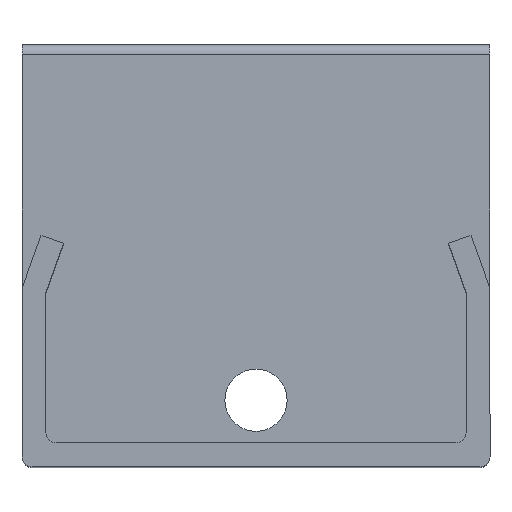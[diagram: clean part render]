
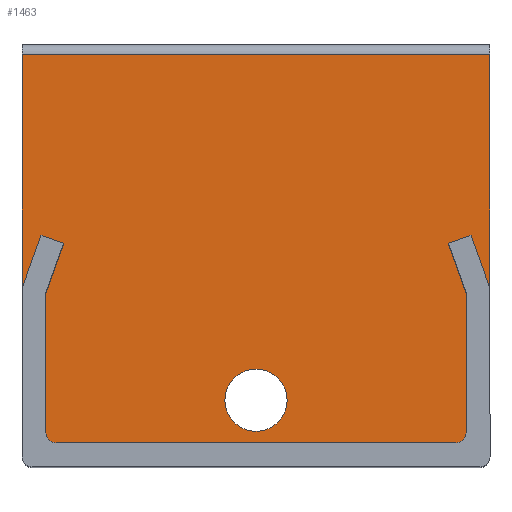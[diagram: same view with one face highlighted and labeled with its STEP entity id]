
A CAD part, top view. The second image highlights one B-rep face of the part: STEP entity #1463.
In plain terms, the highlighted planar face has unit normal (0, 0, 1).
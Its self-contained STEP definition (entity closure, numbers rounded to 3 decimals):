
#3 = EDGE_CURVE ( 'NONE', #1273, #1329, #1323, .T. ) ;
#28 = LINE ( 'NONE', #293, #1146 ) ;
#59 = EDGE_CURVE ( 'NONE', #843, #1461, #857, .T. ) ;
#65 = LINE ( 'NONE', #1519, #347 ) ;
#81 = DIRECTION ( 'NONE',  ( 0., 1., 0. ) ) ;
#122 = CARTESIAN_POINT ( 'NONE',  ( 19.25, 0.2, 0. ) ) ;
#168 = VERTEX_POINT ( 'NONE', #419 ) ;
#197 = ORIENTED_EDGE ( 'NONE', *, *, #878, .F. ) ;
#213 = VECTOR ( 'NONE', #1095, 1000. ) ;
#228 = VECTOR ( 'NONE', #1368, 1000. ) ;
#229 = ORIENTED_EDGE ( 'NONE', *, *, #583, .F. ) ;
#247 = CARTESIAN_POINT ( 'NONE',  ( 22.55, 35.4, 0. ) ) ;
#267 = CARTESIAN_POINT ( 'NONE',  ( 19.25, 1.2, 0. ) ) ;
#276 = EDGE_CURVE ( 'NONE', #168, #1060, #620, .T. ) ;
#277 = CIRCLE ( 'NONE', #632, 3. ) ;
#287 = CARTESIAN_POINT ( 'NONE',  ( 22.55, 15.1, 0. ) ) ;
#291 = CARTESIAN_POINT ( 'NONE',  ( 0., 4.4, 0. ) ) ;
#293 = CARTESIAN_POINT ( 'NONE',  ( 20.25, 1.2, 0. ) ) ;
#298 = DIRECTION ( 'NONE',  ( 0., 1., 0. ) ) ;
#312 = DIRECTION ( 'NONE',  ( -0.338, -0.941, 0. ) ) ;
#314 = DIRECTION ( 'NONE',  ( 0., 0., -1. ) ) ;
#336 = VERTEX_POINT ( 'NONE', #1677 ) ;
#347 = VECTOR ( 'NONE', #312, 1000. ) ;
#372 = CARTESIAN_POINT ( 'NONE',  ( 0., 1.4, 0. ) ) ;
#379 = ORIENTED_EDGE ( 'NONE', *, *, #934, .F. ) ;
#384 = LINE ( 'NONE', #1326, #1490 ) ;
#419 = CARTESIAN_POINT ( 'NONE',  ( -20.25, 14.7, 0. ) ) ;
#441 = VERTEX_POINT ( 'NONE', #1415 ) ;
#446 = ORIENTED_EDGE ( 'NONE', *, *, #1405, .F. ) ;
#459 = CARTESIAN_POINT ( 'NONE',  ( -18.556, 19.423, 0. ) ) ;
#499 = AXIS2_PLACEMENT_3D ( 'NONE', #790, #664, #1756 ) ;
#548 = CARTESIAN_POINT ( 'NONE',  ( -22.55, 35.4, 0. ) ) ;
#556 = DIRECTION ( 'NONE',  ( 0., 1., 0. ) ) ;
#579 = AXIS2_PLACEMENT_3D ( 'NONE', #267, #688, #1628 ) ;
#583 = EDGE_CURVE ( 'NONE', #1461, #168, #687, .T. ) ;
#590 = CARTESIAN_POINT ( 'NONE',  ( -18.556, 19.423, 0. ) ) ;
#596 = FACE_OUTER_BOUND ( 'NONE', #927, .T. ) ;
#597 = LINE ( 'NONE', #287, #228 ) ;
#620 = LINE ( 'NONE', #459, #1169 ) ;
#623 = CARTESIAN_POINT ( 'NONE',  ( -20.25, 14.7, 0. ) ) ;
#632 = AXIS2_PLACEMENT_3D ( 'NONE', #291, #1109, #1243 ) ;
#647 = DIRECTION ( 'NONE',  ( 0.338, -0.941, 0. ) ) ;
#653 = VERTEX_POINT ( 'NONE', #122 ) ;
#656 = CIRCLE ( 'NONE', #579, 1. ) ;
#664 = DIRECTION ( 'NONE',  ( 0., 0., -1. ) ) ;
#687 = LINE ( 'NONE', #623, #814 ) ;
#688 = DIRECTION ( 'NONE',  ( 0., 0., -1. ) ) ;
#689 = EDGE_CURVE ( 'NONE', #336, #1273, #1371, .T. ) ;
#695 = CARTESIAN_POINT ( 'NONE',  ( 0., 4.4, 0. ) ) ;
#700 = CARTESIAN_POINT ( 'NONE',  ( 21.6, 37.7, 0. ) ) ;
#706 = PLANE ( 'NONE',  #1749 ) ;
#710 = DIRECTION ( 'NONE',  ( 0.338, 0.941, 0. ) ) ;
#767 = AXIS2_PLACEMENT_3D ( 'NONE', #695, #972, #298 ) ;
#780 = FACE_BOUND ( 'NONE', #951, .T. ) ;
#790 = CARTESIAN_POINT ( 'NONE',  ( -19.25, 1.2, 0. ) ) ;
#791 = CARTESIAN_POINT ( 'NONE',  ( 20.25, 1.2, 0. ) ) ;
#794 = EDGE_CURVE ( 'NONE', #868, #441, #65, .T. ) ;
#798 = CARTESIAN_POINT ( 'NONE',  ( 21.6, 37.7, 0. ) ) ;
#804 = VERTEX_POINT ( 'NONE', #838 ) ;
#806 = DIRECTION ( 'NONE',  ( -1., 0., 0. ) ) ;
#809 = CARTESIAN_POINT ( 'NONE',  ( -22.55, 37.7, 0. ) ) ;
#814 = VECTOR ( 'NONE', #81, 1000. ) ;
#838 = CARTESIAN_POINT ( 'NONE',  ( 18.556, 19.423, 0. ) ) ;
#843 = VERTEX_POINT ( 'NONE', #1388 ) ;
#845 = EDGE_CURVE ( 'NONE', #1333, #1201, #1321, .T. ) ;
#852 = DIRECTION ( 'NONE',  ( 0., 1., 0. ) ) ;
#857 = CIRCLE ( 'NONE', #499, 1. ) ;
#863 = ORIENTED_EDGE ( 'NONE', *, *, #1337, .F. ) ;
#868 = VERTEX_POINT ( 'NONE', #1250 ) ;
#878 = EDGE_CURVE ( 'NONE', #441, #1329, #1754, .T. ) ;
#923 = DIRECTION ( 'NONE',  ( -0.941, 0.338, 0. ) ) ;
#927 = EDGE_LOOP ( 'NONE', ( #1105, #973, #1227, #197, #1397, #1213, #1334, #229, #1078, #1702, #863, #379, #1384, #1282 ) ) ;
#934 = EDGE_CURVE ( 'NONE', #1002, #1730, #28, .T. ) ;
#951 = EDGE_LOOP ( 'NONE', ( #1248, #446 ) ) ;
#967 = LINE ( 'NONE', #1131, #1212 ) ;
#972 = DIRECTION ( 'NONE',  ( 0., 0., 1. ) ) ;
#973 = ORIENTED_EDGE ( 'NONE', *, *, #689, .T. ) ;
#990 = CARTESIAN_POINT ( 'NONE',  ( -20.25, 1.2, 0. ) ) ;
#1002 = VERTEX_POINT ( 'NONE', #1011 ) ;
#1011 = CARTESIAN_POINT ( 'NONE',  ( 20.25, 14.7, 0. ) ) ;
#1033 = EDGE_CURVE ( 'NONE', #1142, #804, #967, .T. ) ;
#1060 = VERTEX_POINT ( 'NONE', #590 ) ;
#1078 = ORIENTED_EDGE ( 'NONE', *, *, #59, .F. ) ;
#1095 = DIRECTION ( 'NONE',  ( 0., 1., 0. ) ) ;
#1105 = ORIENTED_EDGE ( 'NONE', *, *, #1350, .F. ) ;
#1109 = DIRECTION ( 'NONE',  ( 0., 0., 1. ) ) ;
#1131 = CARTESIAN_POINT ( 'NONE',  ( 20.721, 20.2, 0. ) ) ;
#1142 = VERTEX_POINT ( 'NONE', #1561 ) ;
#1146 = VECTOR ( 'NONE', #1385, 1000. ) ;
#1169 = VECTOR ( 'NONE', #710, 1000. ) ;
#1201 = VERTEX_POINT ( 'NONE', #372 ) ;
#1212 = VECTOR ( 'NONE', #1682, 1000. ) ;
#1213 = ORIENTED_EDGE ( 'NONE', *, *, #1696, .F. ) ;
#1227 = ORIENTED_EDGE ( 'NONE', *, *, #3, .T. ) ;
#1235 = EDGE_CURVE ( 'NONE', #804, #1002, #384, .T. ) ;
#1243 = DIRECTION ( 'NONE',  ( 0., 1., 0. ) ) ;
#1248 = ORIENTED_EDGE ( 'NONE', *, *, #845, .F. ) ;
#1250 = CARTESIAN_POINT ( 'NONE',  ( -20.721, 20.2, 0. ) ) ;
#1262 = VECTOR ( 'NONE', #923, 1000. ) ;
#1273 = VERTEX_POINT ( 'NONE', #1476 ) ;
#1282 = ORIENTED_EDGE ( 'NONE', *, *, #1033, .F. ) ;
#1285 = DIRECTION ( 'NONE',  ( -1., 0., 0. ) ) ;
#1321 = CIRCLE ( 'NONE', #767, 3. ) ;
#1323 = LINE ( 'NONE', #798, #1412 ) ;
#1326 = CARTESIAN_POINT ( 'NONE',  ( 18.556, 19.423, 0. ) ) ;
#1329 = VERTEX_POINT ( 'NONE', #809 ) ;
#1333 = VERTEX_POINT ( 'NONE', #1618 ) ;
#1334 = ORIENTED_EDGE ( 'NONE', *, *, #276, .F. ) ;
#1337 = EDGE_CURVE ( 'NONE', #1730, #653, #656, .T. ) ;
#1350 = EDGE_CURVE ( 'NONE', #336, #1142, #597, .T. ) ;
#1368 = DIRECTION ( 'NONE',  ( -0.338, 0.941, 0. ) ) ;
#1371 = LINE ( 'NONE', #247, #213 ) ;
#1384 = ORIENTED_EDGE ( 'NONE', *, *, #1235, .F. ) ;
#1385 = DIRECTION ( 'NONE',  ( 0., -1., 0. ) ) ;
#1388 = CARTESIAN_POINT ( 'NONE',  ( -19.25, 0.2, 0. ) ) ;
#1397 = ORIENTED_EDGE ( 'NONE', *, *, #794, .F. ) ;
#1405 = EDGE_CURVE ( 'NONE', #1201, #1333, #277, .T. ) ;
#1406 = VECTOR ( 'NONE', #1285, 1000. ) ;
#1412 = VECTOR ( 'NONE', #806, 1000. ) ;
#1415 = CARTESIAN_POINT ( 'NONE',  ( -22.55, 15.1, 0. ) ) ;
#1461 = VERTEX_POINT ( 'NONE', #990 ) ;
#1463 = ADVANCED_FACE ( 'NONE', ( #780, #596 ), #706, .F. ) ;
#1475 = CARTESIAN_POINT ( 'NONE',  ( -20.721, 20.2, 0. ) ) ;
#1476 = CARTESIAN_POINT ( 'NONE',  ( 22.55, 37.7, 0. ) ) ;
#1490 = VECTOR ( 'NONE', #647, 1000. ) ;
#1498 = EDGE_CURVE ( 'NONE', #653, #843, #1668, .T. ) ;
#1519 = CARTESIAN_POINT ( 'NONE',  ( -22.55, 15.1, 0. ) ) ;
#1531 = LINE ( 'NONE', #1475, #1262 ) ;
#1551 = CARTESIAN_POINT ( 'NONE',  ( -19.25, 0.2, 0. ) ) ;
#1561 = CARTESIAN_POINT ( 'NONE',  ( 20.721, 20.2, 0. ) ) ;
#1618 = CARTESIAN_POINT ( 'NONE',  ( 0., 7.4, 0. ) ) ;
#1628 = DIRECTION ( 'NONE',  ( -1., 0., 0. ) ) ;
#1648 = VECTOR ( 'NONE', #556, 1000. ) ;
#1668 = LINE ( 'NONE', #1551, #1406 ) ;
#1677 = CARTESIAN_POINT ( 'NONE',  ( 22.55, 15.1, 0. ) ) ;
#1682 = DIRECTION ( 'NONE',  ( -0.941, -0.338, 0. ) ) ;
#1696 = EDGE_CURVE ( 'NONE', #1060, #868, #1531, .T. ) ;
#1702 = ORIENTED_EDGE ( 'NONE', *, *, #1498, .F. ) ;
#1730 = VERTEX_POINT ( 'NONE', #791 ) ;
#1749 = AXIS2_PLACEMENT_3D ( 'NONE', #700, #314, #852 ) ;
#1754 = LINE ( 'NONE', #548, #1648 ) ;
#1756 = DIRECTION ( 'NONE',  ( -1., 0., 0. ) ) ;
